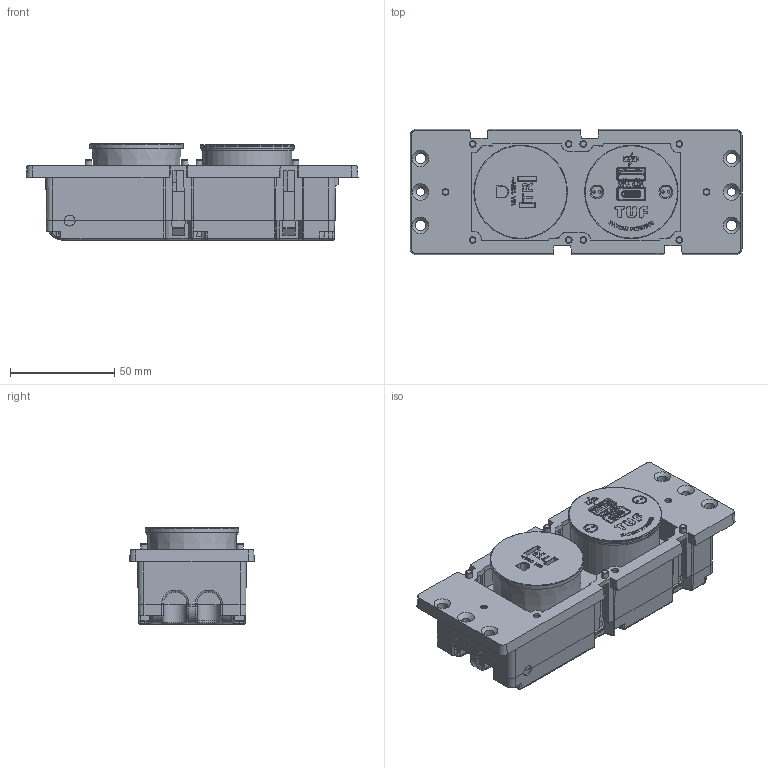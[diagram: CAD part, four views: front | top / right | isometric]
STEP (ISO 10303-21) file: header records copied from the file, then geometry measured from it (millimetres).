
FILE_DESCRIPTION((''),'2;1');
FILE_NAME('P:\Manufacturing\Autocad drawings\Inventor\blocks\puma-block\Puma 2G US TR + TUF.stp','2020-04-01T09:54:09',('scottreyner'),(''),'Autodesk Inventor 2012','Autodesk Inventor 2012','');
FILE_SCHEMA(('AUTOMOTIVE_DESIGN { 1 0 10303 214 1 1 1 1 }'));
Length unit declared in the file: inch
Products named in the file (1): Part36
Bounding box: 159 x 60 x 46.2 mm (x, y, z)
Volume: 232380.4 mm3; surface area: 77979.8 mm2
Topology: 4 solids, 32 shells, 4378 faces, 12282 edges, 8010 vertices
Faces by surface type: plane 2796, cylinder 1077, bspline 276, cone 151, torus 72, sphere 6
Full cylindrical faces by diameter (mm): 0.5 x1, 0.7 x2, 0.8 x2, 1.2 x4, 5.106 x2, 5.5 x2, 6.6 x2, 41 x2, 42.6 x1, 44 x1, 44.776 x1, 44.8 x1
Entity records: 173624 total; most frequent: CARTESIAN_POINT 47974, ORIENTED_EDGE 26164, DIRECTION 24113, EDGE_CURVE 13082, VECTOR 9547, LINE 9547, VERTEX_POINT 8511, AXIS2_PLACEMENT_3D 7283
